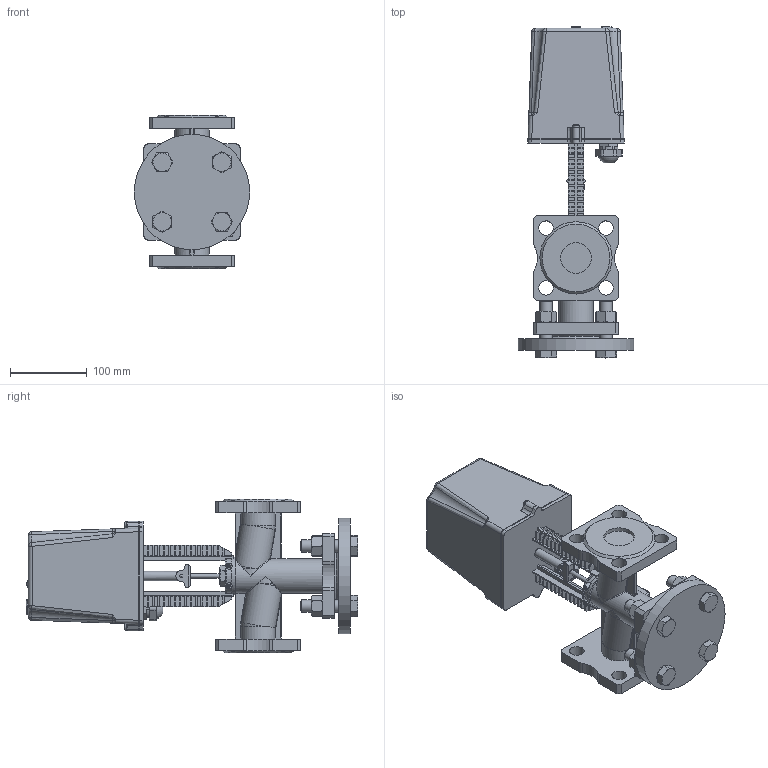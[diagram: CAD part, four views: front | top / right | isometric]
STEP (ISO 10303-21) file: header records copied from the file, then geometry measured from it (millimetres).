
FILE_DESCRIPTION(('STEP AP242'), '1');
FILE_NAME('VSR1-13V-PED-F Êëàïàí çàïîðíî-ðåãóëèðóþùèé DN.ru Äó40 Ðó16', '', ('UNSPECIFIED'), ('UNSPECIFIED'), 'C3D Converter', 'C3D Toolkit', '');
FILE_SCHEMA(('AP242_MANAGED_MODEL_BASED_3D_ENGINEERING_MIM_LF { 1 0 10303 442 1 1 4 }'));
Length unit declared in the file: millimetre
Products named in the file (1): VSR1-13V-PED-F
Bounding box: 150 x 432 x 200 mm (x, y, z)
Volume: 3478860.8 mm3; surface area: 344460.6 mm2
Topology: 1 solids, 1 shells, 1445 faces, 3896 edges, 2456 vertices
Faces by surface type: plane 758, cylinder 317, extrusion 145, bspline 88, cone 62, torus 45, sphere 30
Full cylindrical faces by diameter (mm): 4 x5, 6 x1, 7 x2, 7.5 x3, 12 x2, 13.835 x4, 16 x4, 18 x4, 19 x12, 24 x4, 25 x1, 40 x2, 45 x1, 50 x1, 150 x1
Entity records: 65412 total; most frequent: CARTESIAN_POINT 23215, ORIENTED_EDGE 7494, DIRECTION 6434, EDGE_CURVE 3747, VERTEX_POINT 2448, VECTOR 2414, LINE 2269, AXIS2_PLACEMENT_3D 2010
